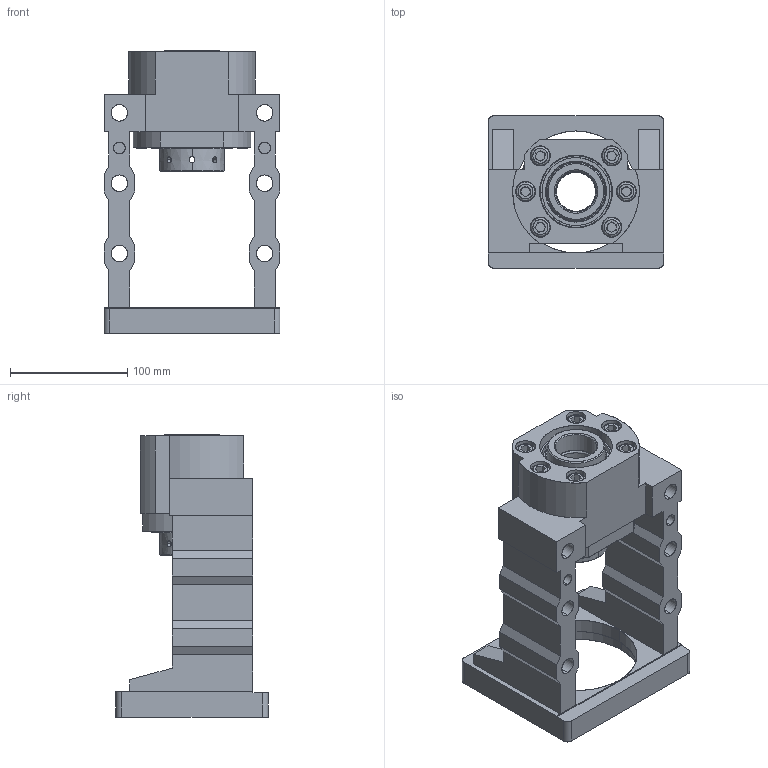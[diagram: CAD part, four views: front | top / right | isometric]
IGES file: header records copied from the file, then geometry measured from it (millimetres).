
Start section: SolidWorks IGES file using analytic representation for surfaces
Bounding box: 150 x 130 x 241 mm (x, y, z)
Surface area: 216544.1 mm2 (no closed solid volume)
Topology: 0 solids, 0 shells, 350 faces, 6142 edges, 6134 vertices
Faces by surface type: revolution 188, bspline 162
